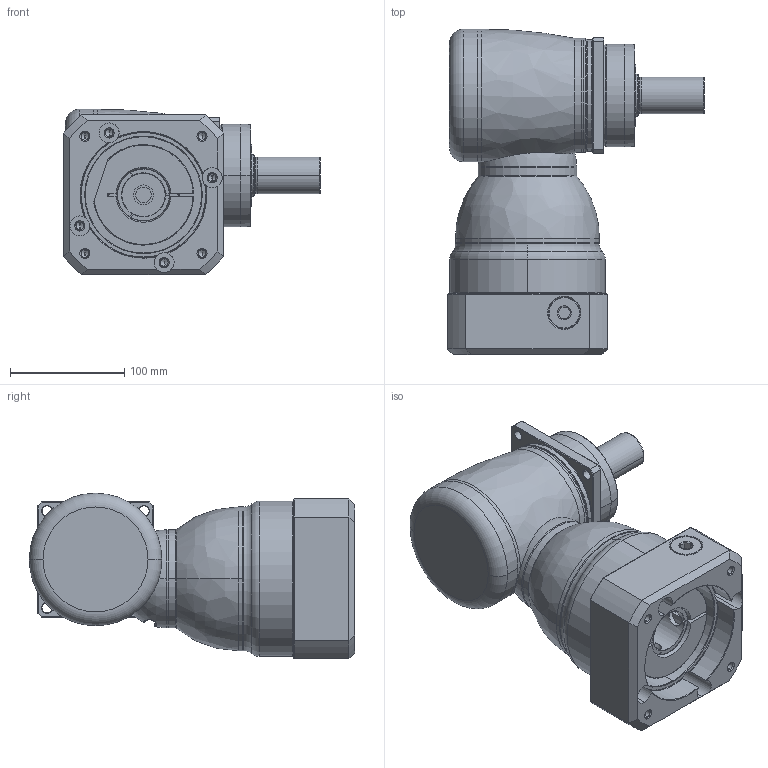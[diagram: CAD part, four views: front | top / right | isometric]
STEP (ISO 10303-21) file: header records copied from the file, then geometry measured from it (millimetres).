
FILE_DESCRIPTION((''),'2;1');
FILE_NAME('KF100_1ST_38-P0409900101_ASM','2016-06-22T',('d01943'),(''),'PRO/ENGINEER BY PARAMETRIC TECHNOLOGY CORPORATION, 2008410','PRO/ENGINEER BY PARAMETRIC TECHNOLOGY CORPORATION, 2008410','');
FILE_SCHEMA(('CONFIG_CONTROL_DESIGN'));
Length unit declared in the file: millimetre
Products named in the file (11): P1008400002; P1804400001; P0915400001; P1315400001; P1007400001; P1318400501; P0409900101; P0503900012; P0912405001; 21711422019; KF100_1ST_38-P0409900101_ASM
Assembly tree (10 placements, depth 2):
  KF100_1ST_38-P0409900101_ASM
    P1008400002
    P1804400001
    P0915400001
    P1315400001
    P1007400001
    P1318400501
    P0409900101
    P0503900012
    P0912405001
    21711422019
Bounding box: 225 x 285 x 145 mm (x, y, z)
Volume: 2685167.7 mm3; surface area: 398961.2 mm2
Topology: 11 solids, 11 shells, 493 faces, 1119 edges, 668 vertices
Faces by surface type: cylinder 166, cone 124, plane 103, torus 62, bspline 36, sphere 2
Entity records: 19838 total; most frequent: CARTESIAN_POINT 8590, DIRECTION 2456, ORIENTED_EDGE 2202, EDGE_CURVE 1101, AXIS2_PLACEMENT_3D 1044, VERTEX_POINT 668, CIRCLE 566, EDGE_LOOP 565
